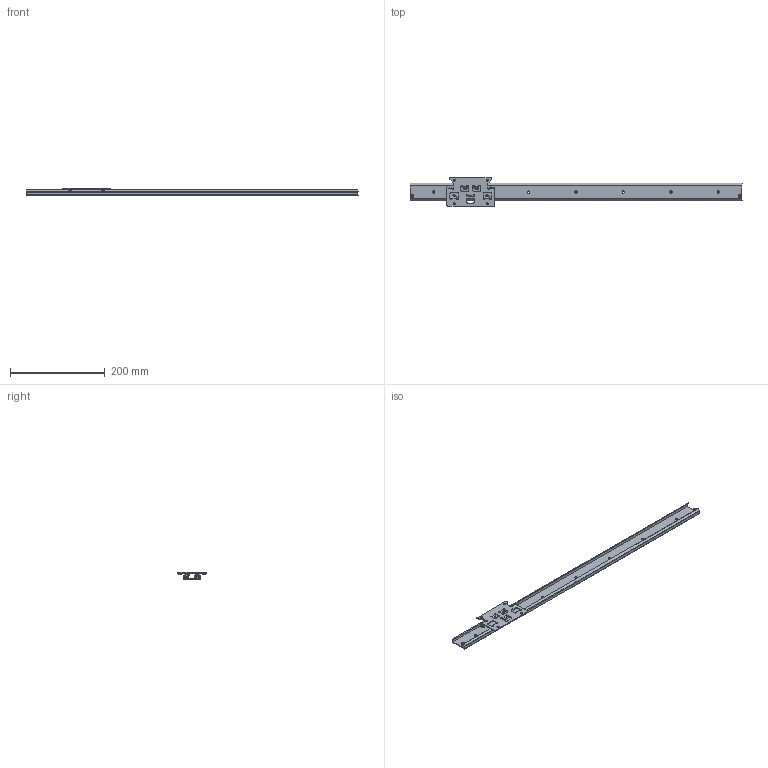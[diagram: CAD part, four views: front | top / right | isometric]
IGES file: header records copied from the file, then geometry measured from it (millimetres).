
Global section: native system: Kubotek KeyCreator; preprocessor: KCM Version 1.1.1442.0; author: KeyCreator User; organization: Self; date: 20181022.105455; units: millimetre
Bounding box: 700 x 60 x 14.8 mm (x, y, z)
Surface area: 101333.1 mm2 (no closed solid volume)
Topology: 0 solids, 0 shells, 919 faces, 6125 edges, 6126 vertices
Faces by surface type: bspline 919
